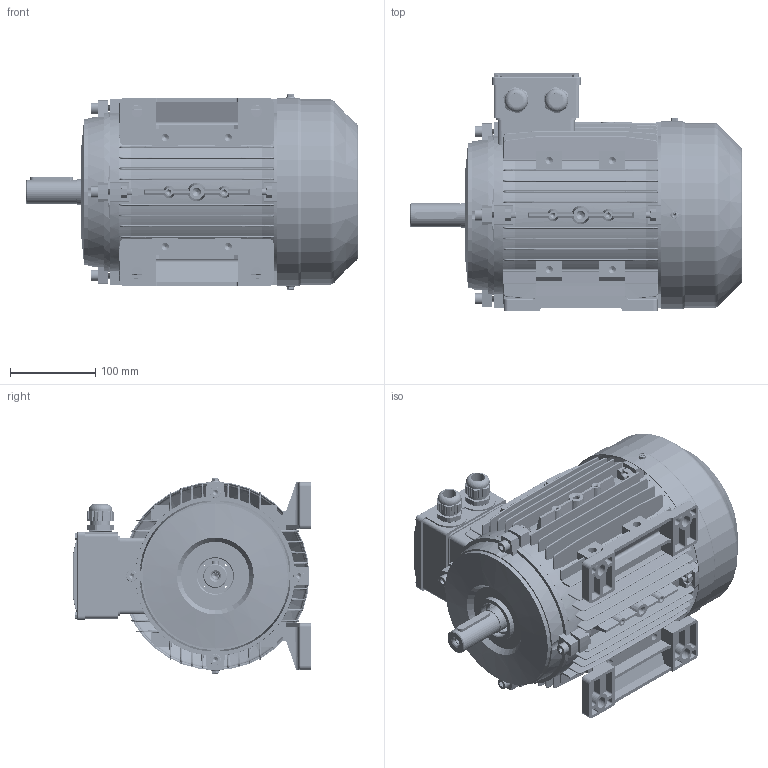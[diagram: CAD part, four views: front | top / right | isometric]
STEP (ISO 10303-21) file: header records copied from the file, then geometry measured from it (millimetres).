
FILE_DESCRIPTION (( 'STEP AP203' ), '1' );
FILE_NAME ('MSL112M assembly B3.STEP', '2017-11-26T10:01:55', ( 'user' ), ( 'china' ), 'SwSTEP 2.0', 'SolidWorks 2016', '' );
FILE_SCHEMA (( 'CONFIG_CONTROL_DESIGN' ));
Length unit declared in the file: millimetre
Products named in the file (16): GB-T 29.2-1988 M5鞠褒坋趼湍菜_10; MS132諉盄碟裔(苤); M112菁褐; M25 cable gland; MSL112M assembly B3; M112-132諉盄碟(苤); M112儂褲; M112傷裔B3_Post; GB-T 70.1-2000 M8_40; MS132諉盄碟釱(苤)_2Holes; M112-Shaft drive end; MS112 綴裔瑞欶郪磁_95; GB-T 5780-2000 M8_040; GB-T 41-2000 M8; GB-T 29.2-1988 M4鞠褒坋趼湍菜_05; M112瑞欶_95
Assembly tree (36 placements, depth 3):
  MSL112M assembly B3
    M112儂褲
    M112-Shaft drive end
    MS112 綴裔瑞欶郪磁_95
      M112傷裔B3_Post
      M112瑞欶_95
      GB-T 29.2-1988 M5鞠褒坋趼湍菜_10  x3
    M112-132諉盄碟(苤)
      MS132諉盄碟釱(苤)_2Holes
      MS132諉盄碟裔(苤)
      GB-T 29.2-1988 M4鞠褒坋趼湍菜_05  x4
      M25 cable gland  x2
    M112菁褐  x2
    GB-T 41-2000 M8  x8
    GB-T 70.1-2000 M8_40  x4
    GB-T 5780-2000 M8_040  x4
    M112傷裔B3_Post
Bounding box: 389 x 278.5 x 228.7 mm (x, y, z)
Volume: 1987210.3 mm3; surface area: 1129231 mm2
Topology: 36 solids, 36 shells, 5527 faces, 14228 edges, 8796 vertices
Faces by surface type: plane 2241, cylinder 1495, cone 1109, bspline 444, torus 140, sphere 98
Entity records: 129700 total; most frequent: CARTESIAN_POINT 43342, ORIENTED_EDGE 18316, DIRECTION 16401, EDGE_CURVE 9158, VERTEX_POINT 5760, AXIS2_PLACEMENT_3D 5597, VECTOR 5207, LINE 5207
